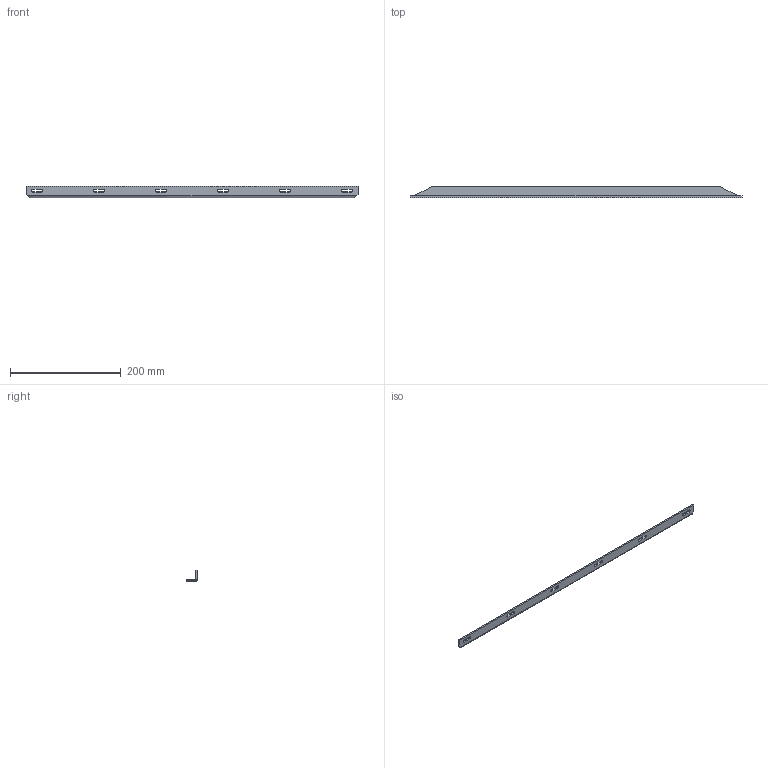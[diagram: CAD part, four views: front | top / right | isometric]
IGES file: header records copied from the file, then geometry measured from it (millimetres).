
Start section: SolidWorks IGES file using analytic representation for surfaces
Bounding box: 600 x 20 x 20 mm (x, y, z)
Surface area: 45184.2 mm2 (no closed solid volume)
Topology: 0 solids, 0 shells, 92 faces, 994 edges, 994 vertices
Faces by surface type: bspline 72, revolution 20
